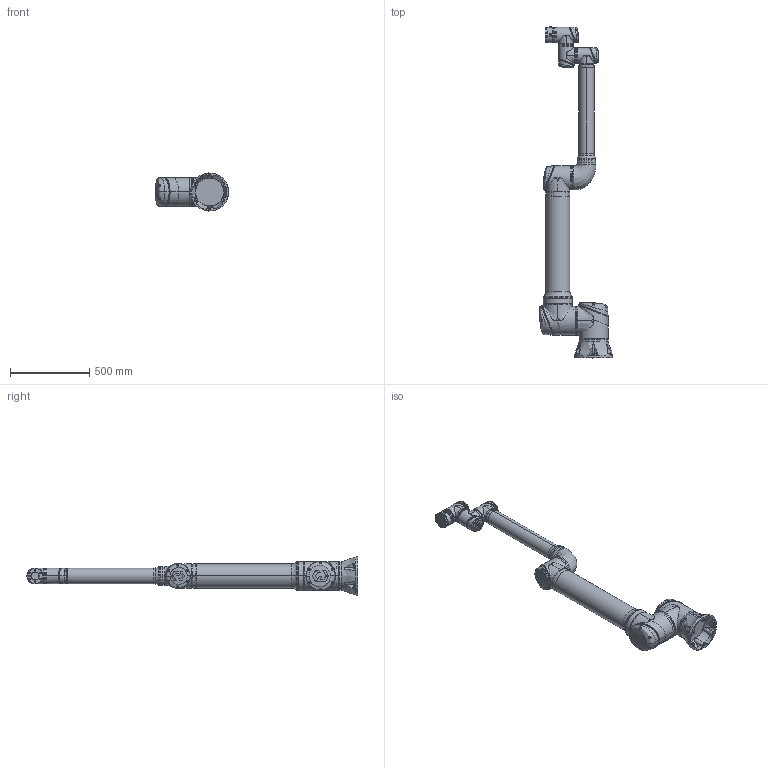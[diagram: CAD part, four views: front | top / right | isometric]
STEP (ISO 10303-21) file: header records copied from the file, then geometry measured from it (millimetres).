
FILE_DESCRIPTION (( 'STEP AP203' ), '1' );
FILE_NAME ('CS_掛极CS620F_V1.2.STEP', '2026-03-12T09:43:48', ( '' ), ( '' ), 'SwSTEP 2.0', 'SolidWorks 2017', '' );
FILE_SCHEMA (( 'CONFIG_CONTROL_DESIGN' ));
Length unit declared in the file: millimetre
Products named in the file (8): CS620F-J2_Link1_J3; CS_掛极CS620F_V1.2; C20藺傷楊擘郪璃; CS620F-J5; CS620F-Base; CS620F-Link2A_Link2B_J4; CS620F-J6; CS620F-J1
Assembly tree (7 placements, depth 2):
  CS_掛极CS620F_V1.2
    CS620F-Base
    CS620F-J1
    CS620F-J2_Link1_J3
    CS620F-Link2A_Link2B_J4
    CS620F-J5
    CS620F-J6
    C20藺傷楊擘郪璃
Bounding box: 460.8 x 2092 x 239.8 mm (x, y, z)
Volume: 12338641.3 mm3; surface area: 1977086.8 mm2
Topology: 44 solids, 100 shells, 5786 faces, 13754 edges, 8188 vertices
Faces by surface type: bspline 2669, plane 1413, cylinder 1082, cone 369, torus 137, sphere 116
Full cylindrical faces by diameter (mm): 12 x2
Entity records: 322258 total; most frequent: CARTESIAN_POINT 210010, ORIENTED_EDGE 26988, DIRECTION 17926, EDGE_CURVE 13496, VERTEX_POINT 8172, AXIS2_PLACEMENT_3D 7458, EDGE_LOOP 6134, ADVANCED_FACE 5786
